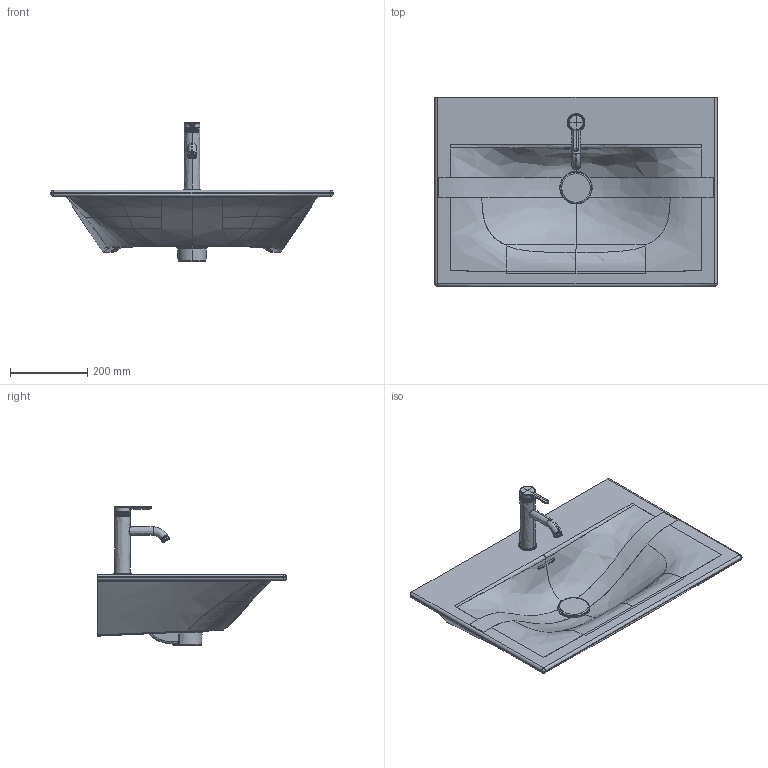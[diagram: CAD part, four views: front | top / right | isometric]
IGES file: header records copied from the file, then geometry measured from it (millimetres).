
Global section: file name: D:\01_Planungsdaten\_news19\Keramik\Viu\234473\3D\234473.igs; native system: Rhinoceros ( Sep 13 2016 ); preprocessor: Trout Lake IGES 012 Sep 13 2016; date: 190218.143001; units: millimetre
Bounding box: 730 x 489.03 x 359.95 mm (x, y, z)
Surface area: 1135860.3 mm2 (no closed solid volume)
Topology: 0 solids, 0 shells, 772 faces, 7344 edges, 7322 vertices
Faces by surface type: bspline 772
